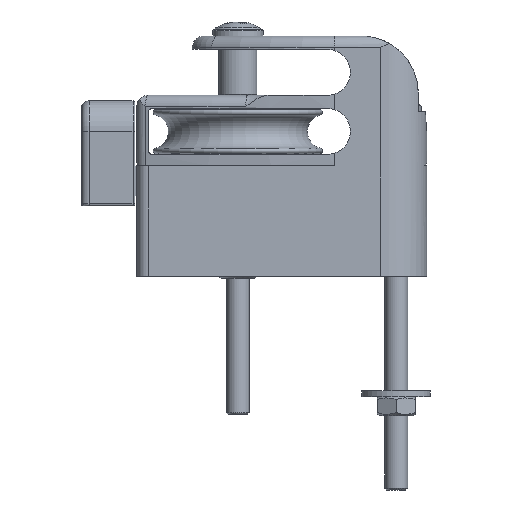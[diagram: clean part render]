
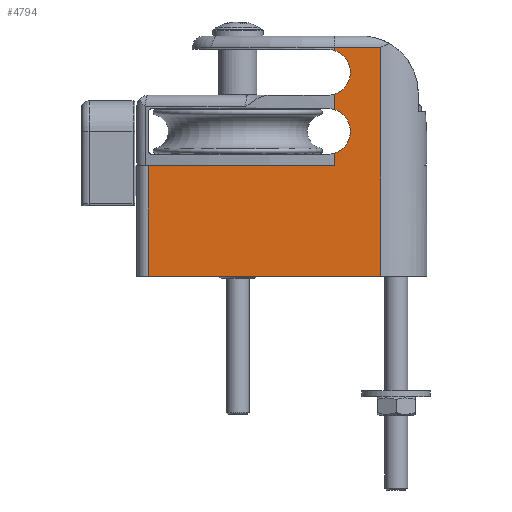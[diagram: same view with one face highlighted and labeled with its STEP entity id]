
A CAD part, front view. The second image highlights one B-rep face of the part: STEP entity #4794.
In plain terms, the highlighted planar face has unit normal (0, -1, 0).
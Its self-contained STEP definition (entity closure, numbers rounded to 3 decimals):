
#269=LINE('',#7895,#513);
#271=LINE('',#7929,#515);
#273=LINE('',#7950,#517);
#277=LINE('',#7998,#521);
#313=LINE('',#8400,#557);
#333=LINE('',#8466,#577);
#340=LINE('',#8493,#584);
#349=LINE('',#8513,#593);
#513=VECTOR('',#6207,10.);
#515=VECTOR('',#6209,10.);
#517=VECTOR('',#6215,10.);
#521=VECTOR('',#6247,10.);
#557=VECTOR('',#6577,10.);
#577=VECTOR('',#6639,10.);
#584=VECTOR('',#6670,10.);
#593=VECTOR('',#6695,10.);
#1192=FACE_OUTER_BOUND('',#1641,.T.);
#1641=EDGE_LOOP('',(#4121,#4122,#4123,#4124,#4125,#4126,#4127,#4128,#4129,
#4130));
#1884=CIRCLE('',#5196,6.);
#1892=CIRCLE('',#5218,6.);
#2269=VERTEX_POINT('',#7892);
#2270=VERTEX_POINT('',#7894);
#2273=VERTEX_POINT('',#7923);
#2274=VERTEX_POINT('',#7928);
#2278=VERTEX_POINT('',#7947);
#2279=VERTEX_POINT('',#7949);
#2289=VERTEX_POINT('',#7993);
#2384=VERTEX_POINT('',#8398);
#2408=VERTEX_POINT('',#8463);
#2409=VERTEX_POINT('',#8465);
#2804=EDGE_CURVE('',#2269,#2270,#269,.T.);
#2810=EDGE_CURVE('',#2273,#2274,#271,.T.);
#2815=EDGE_CURVE('',#2278,#2279,#273,.T.);
#2832=EDGE_CURVE('',#2289,#2278,#277,.T.);
#2853=EDGE_CURVE('',#2274,#2289,#1884,.T.);
#2887=EDGE_CURVE('',#2270,#2273,#1892,.T.);
#2954=EDGE_CURVE('',#2384,#2269,#313,.T.);
#2986=EDGE_CURVE('',#2409,#2408,#333,.T.);
#2999=EDGE_CURVE('',#2409,#2384,#340,.T.);
#3010=EDGE_CURVE('',#2408,#2279,#349,.T.);
#4121=ORIENTED_EDGE('',*,*,#2986,.T.);
#4122=ORIENTED_EDGE('',*,*,#3010,.T.);
#4123=ORIENTED_EDGE('',*,*,#2815,.F.);
#4124=ORIENTED_EDGE('',*,*,#2832,.F.);
#4125=ORIENTED_EDGE('',*,*,#2853,.F.);
#4126=ORIENTED_EDGE('',*,*,#2810,.F.);
#4127=ORIENTED_EDGE('',*,*,#2887,.F.);
#4128=ORIENTED_EDGE('',*,*,#2804,.F.);
#4129=ORIENTED_EDGE('',*,*,#2954,.F.);
#4130=ORIENTED_EDGE('',*,*,#2999,.F.);
#4524=PLANE('',#5373);
#4794=ADVANCED_FACE('',(#1192),#4524,.T.);
#5196=AXIS2_PLACEMENT_3D('',#8092,#6280,#6281);
#5218=AXIS2_PLACEMENT_3D('',#8215,#6340,#6341);
#5373=AXIS2_PLACEMENT_3D('',#8514,#6696,#6697);
#6207=DIRECTION('',(0.,0.,1.));
#6209=DIRECTION('',(0.,0.,1.));
#6215=DIRECTION('',(1.,0.,0.));
#6247=DIRECTION('',(0.,0.,1.));
#6280=DIRECTION('center_axis',(0.,-1.,0.));
#6281=DIRECTION('ref_axis',(0.,0.,
-1.));
#6340=DIRECTION('center_axis',(0.,-1.,0.));
#6341=DIRECTION('ref_axis',(0.,0.,-1.));
#6577=DIRECTION('',(1.,0.,0.));
#6639=DIRECTION('',(1.,0.,0.));
#6670=DIRECTION('',(0.,0.,1.));
#6695=DIRECTION('',(0.,0.,1.));
#6696=DIRECTION('center_axis',(0.,-1.,0.));
#6697=DIRECTION('ref_axis',(1.,0.,0.));
#7892=CARTESIAN_POINT('',(-16.1,-20.,29.));
#7894=CARTESIAN_POINT('',(-16.1,-20.,32.309));
#7895=CARTESIAN_POINT('',(-16.1,-20.,29.));
#7923=CARTESIAN_POINT('',(-16.1,-20.,43.691));
#7928=CARTESIAN_POINT('',(-16.1,-20.,47.809));
#7929=CARTESIAN_POINT('',(-16.1,-20.,29.));
#7947=CARTESIAN_POINT('',(-16.1,-20.,60.));
#7949=CARTESIAN_POINT('',(-4.,-20.,60.));
#7950=CARTESIAN_POINT('',(-17.05,-20.,60.));
#7993=CARTESIAN_POINT('',(-16.1,-20.,59.191));
#7998=CARTESIAN_POINT('',(-16.1,-20.,29.));
#8092=CARTESIAN_POINT('Origin',(-18.,-20.,53.5));
#8215=CARTESIAN_POINT('Origin',(-18.,-20.,38.));
#8398=CARTESIAN_POINT('',(-65.,-20.,29.));
#8400=CARTESIAN_POINT('',(-65.,-20.,29.));
#8463=CARTESIAN_POINT('',(-4.,-20.,0.));
#8465=CARTESIAN_POINT('',(-65.,-20.,0.));
#8466=CARTESIAN_POINT('',(-65.,-20.,0.));
#8493=CARTESIAN_POINT('',(-65.,-20.,0.));
#8513=CARTESIAN_POINT('',(-4.,-20.,0.));
#8514=CARTESIAN_POINT('Origin',(-65.,-20.,0.));
